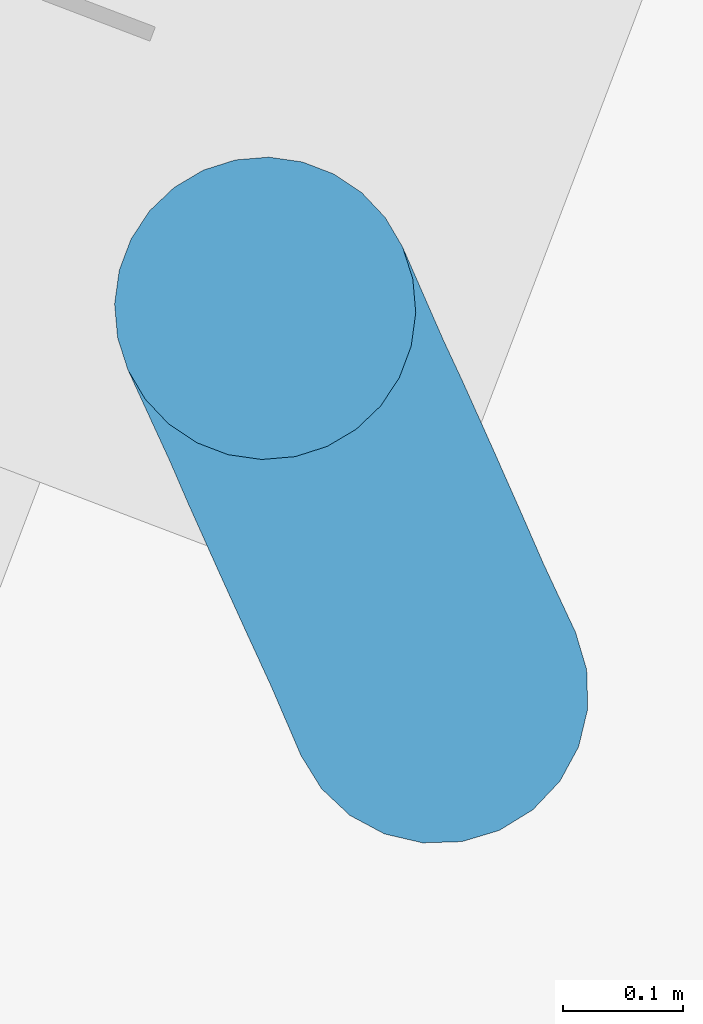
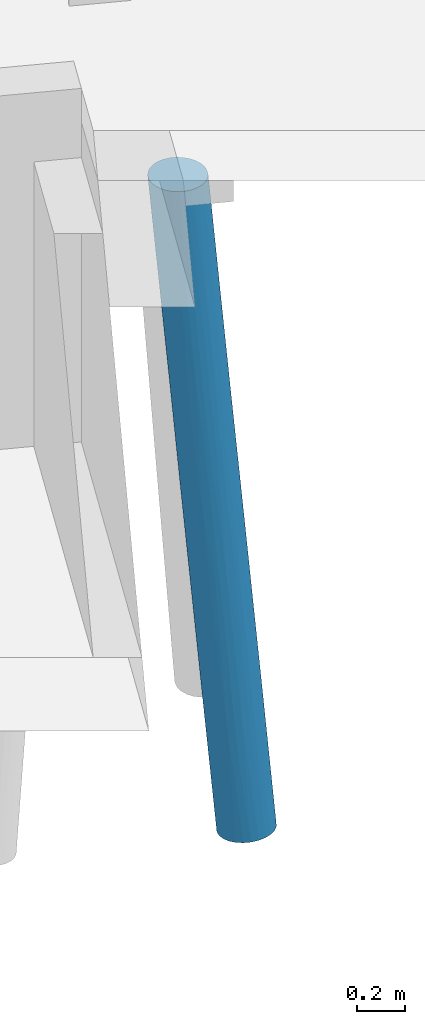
# One storey, part 10 of 46: 1 pile.
"""IFC2X3 building model written with IfcOpenShell, lengths in millimetres."""

import ifcopenshell
import ifcopenshell.guid

model = None  # the IFC model being written
_history = None  # IfcOwnerHistory: only IFC2X3 demands one
_inside = {}  # id of a spatial element -> (the spatial element, [elements in it])
_under = {}  # id of a project, library or spatial element -> (it, [spatial elements below it])
_declared = {}  # id of a project -> (the project, [libraries it declares])
_typed = {}  # id of a type object -> (the type object, [elements of that type])
_made_of = {}  # id of a material, layer set ... -> (it, [elements and type objects made of it])


def new_model(schema):
    """Start an empty IFC model of exactly this schema.

    Asked for "IFC4X3", IfcOpenShell would pick the latest addendum, in which some entities
    have other attributes; the version numbers below select the first issue.
    IFC2X3 requires an IfcOwnerHistory on every rooted entity: one is made here for all.
    """
    global model, _history
    if schema == "IFC4X3":
        model = ifcopenshell.file(schema_version=(4, 3, 0, 0))
    else:
        model = ifcopenshell.file(schema=schema)
    _inside.clear()
    _under.clear()
    _declared.clear()
    _typed.clear()
    _made_of.clear()
    _history = None
    if model.schema == "IFC2X3":
        org = make("IfcOrganization", Name="unknown")
        user = make(
            "IfcPersonAndOrganization",
            ThePerson=make("IfcPerson", FamilyName="unknown"),
            TheOrganization=org,
        )
        app = make(
            "IfcApplication",
            ApplicationDeveloper=org,
            Version="unknown",
            ApplicationFullName="unknown",
            ApplicationIdentifier="unknown",
        )
        _history = make(
            "IfcOwnerHistory",
            OwningUser=user,
            OwningApplication=app,
            ChangeAction="ADDED",
            CreationDate=0,
        )
    return model


def make(cls, **values):
    """One entity of the class cls with the attributes given. An attribute that is None is left unset."""
    return model.create_entity(
        cls, **{name: value for name, value in values.items() if value is not None}
    )


def entity(cls, *values):
    """Any entity or typed value of the class cls, its attributes in the order of the schema. None: left unset."""
    e = model.create_entity(cls)
    for i, value in enumerate(values):
        if value is not None:
            e[i] = value
    return e


def rooted(cls, **values):
    """An entity with a GlobalId (a new one), such as an element, a storey or a relation."""
    return make(cls, GlobalId=ifcopenshell.guid.new(), OwnerHistory=_history, **values)


def si_unit(unit_type, name, prefix=None):
    """IfcSIUnit, for example si_unit("LENGTHUNIT", "METRE", prefix="MILLI")."""
    return make("IfcSIUnit", UnitType=unit_type, Prefix=prefix, Name=name)


def converted_unit(unit_type, name, factor, base, dimensions=None, offset=None):
    """IfcConversionBasedUnit, such as the inch: factor (a typed value) times the base unit."""
    return make(
        "IfcConversionBasedUnit"
        if offset is None
        else "IfcConversionBasedUnitWithOffset",
        ConversionOffset=offset,
        Dimensions=None
        if dimensions is None
        else entity("IfcDimensionalExponents", *dimensions),
        UnitType=unit_type,
        Name=name,
        ConversionFactor=make(
            "IfcMeasureWithUnit", ValueComponent=factor, UnitComponent=base
        ),
    )


def derived_unit(unit_type, elements):
    """IfcDerivedUnit: a product of units, each with its exponent."""
    return make(
        "IfcDerivedUnit",
        Elements=[
            make("IfcDerivedUnitElement", Unit=unit, Exponent=power)
            for unit, power in elements
        ],
        UnitType=unit_type,
    )


def assignment(units):
    """IfcUnitAssignment: the units of a project."""
    return None if units is None else make("IfcUnitAssignment", Units=units)


def point(xyz):
    """IfcCartesianPoint."""
    return None if xyz is None else make("IfcCartesianPoint", Coordinates=xyz)


def direction(xyz):
    """IfcDirection."""
    return None if xyz is None else make("IfcDirection", DirectionRatios=xyz)


def frame(location, z_axis=None, x_axis=None):
    """IfcAxis2Placement3D, a coordinate frame: its origin and axes. An axis left out is left unset."""
    return make(
        "IfcAxis2Placement3D",
        Location=point(location),
        Axis=direction(z_axis),
        RefDirection=direction(x_axis),
    )


def origin():
    """The frame at (0, 0, 0) with its axes left unset."""
    return frame((0.0, 0.0, 0.0))


def place(relative_to, where):
    """IfcLocalPlacement: puts the frame where relative to a parent placement (None: the world)."""
    return make(
        "IfcLocalPlacement", PlacementRelTo=relative_to, RelativePlacement=where
    )


def context(
    kind, dimensions, precision=None, world=None, true_north=None, identifier=None
):
    """IfcGeometricRepresentationContext, for example the 3D "Model" context."""
    return make(
        "IfcGeometricRepresentationContext",
        ContextIdentifier=identifier,
        ContextType=kind,
        CoordinateSpaceDimension=dimensions,
        Precision=precision,
        WorldCoordinateSystem=world,
        TrueNorth=true_north,
    )


def subcontext(parent, identifier, kind, view, scale=None):
    """IfcGeometricRepresentationSubContext, for example "Body" below "Model"."""
    return make(
        "IfcGeometricRepresentationSubContext",
        ContextIdentifier=identifier,
        ContextType=kind,
        ParentContext=parent,
        TargetScale=scale,
        TargetView=view,
    )


def project(units=None, contexts=None):
    """IfcProject with its units and contexts."""
    return rooted(
        "IfcProject",
        Name="project",
        RepresentationContexts=contexts,
        UnitsInContext=assignment(units),
    )


def spatial(cls, under=None, at=None, **own):
    """A site, building, storey or space (cls), placed at a placement, below another one or the project."""
    s = rooted(cls, ObjectPlacement=at, **own)
    if under is not None:
        _under.setdefault(under.id(), (under, []))[1].append(s)
    return s


def faces_of(points, faces, orient=None, outer=None):
    """IfcFace entities. A face is a list of loops; a loop is a list of indices into points, from 0.

    orient and outer hold one flag for each loop. By default every Orientation is true, the
    first loop of a face is its IfcFaceOuterBound and the others are IfcFaceBound.
    """
    made = []
    for i, loops in enumerate(faces):
        bounds = []
        for j, loop in enumerate(loops):
            is_outer = j == 0 if outer is None else outer[i][j]
            bounds.append(
                make(
                    "IfcFaceOuterBound" if is_outer else "IfcFaceBound",
                    Bound=make("IfcPolyLoop", Polygon=[points[k] for k in loop]),
                    Orientation=True if orient is None else orient[i][j],
                )
            )
        made.append(make("IfcFace", Bounds=bounds))
    return made


def faceted_brep(points, faces, orient=None, outer=None, voids=None):
    """IfcFacetedBrep: a solid bounded by flat faces; with voids (closed shells), ...WithVoids."""
    shared = [point(p) for p in points]
    hull = make("IfcClosedShell", CfsFaces=faces_of(shared, faces, orient, outer))
    if voids is None:
        return make("IfcFacetedBrep", Outer=hull)
    return make(
        "IfcFacetedBrepWithVoids",
        Outer=hull,
        Voids=[
            make(cls, CfsFaces=faces_of(shared, fs, o, b)) for cls, fs, o, b in voids
        ],
    )


def shape(context_of_items, identifier, shape_type, items):
    """IfcShapeRepresentation: the items that make up one representation, for example the "Body"."""
    return make(
        "IfcShapeRepresentation",
        ContextOfItems=context_of_items,
        RepresentationIdentifier=identifier,
        RepresentationType=shape_type,
        Items=items,
    )


def source(mapping_origin, context_of_items, identifier, shape_type, items):
    """IfcRepresentationMap: a shape defined once, which mapped items show again and again."""
    return make(
        "IfcRepresentationMap",
        MappingOrigin=mapping_origin,
        MappedRepresentation=shape(context_of_items, identifier, shape_type, items),
    )


def transform(
    local_origin,
    x_axis=None,
    y_axis=None,
    z_axis=None,
    scale=None,
    scale2=None,
    scale3=None,
    uniform=True,
):
    """IfcCartesianTransformationOperator3D, or its non-uniform kind. x_axis, y_axis, z_axis: its Axis1, 2, 3."""
    if uniform:
        return make(
            "IfcCartesianTransformationOperator3D",
            Axis1=direction(x_axis),
            Axis2=direction(y_axis),
            LocalOrigin=point(local_origin),
            Scale=scale,
            Axis3=direction(z_axis),
        )
    return make(
        "IfcCartesianTransformationOperator3DnonUniform",
        Axis1=direction(x_axis),
        Axis2=direction(y_axis),
        LocalOrigin=point(local_origin),
        Scale=scale,
        Axis3=direction(z_axis),
        Scale2=scale2,
        Scale3=scale3,
    )


def mapped(mapping_source, mapping_target):
    """IfcMappedItem: shows the shape of a source again, moved by a transform."""
    return make(
        "IfcMappedItem", MappingSource=mapping_source, MappingTarget=mapping_target
    )


def material(Name=None, Category=None):
    """IfcMaterial."""
    return make("IfcMaterial", Name=Name, Category=Category)


def made_of(thing, what):
    """Note that an element or type object is made of a material, layer set ...; save() writes the relation."""
    if what is not None:
        _made_of.setdefault(what.id(), (what, []))[1].append(thing)
    return thing


def type_object(cls, material=None, **own):
    """A type object (cls), such as IfcWallType, which elements share."""
    return made_of(rooted(cls, **own), material)


def type_shapes(of_type, sources):
    """Give a type object the sources (RepresentationMaps) that its elements show as mapped items."""
    of_type.RepresentationMaps = sources


def element(
    cls,
    number,
    at=None,
    inside=None,
    cuts=None,
    type_object=None,
    material=None,
    context=None,
    identifier="Body",
    shape_type=None,
    held_by="IfcProductDefinitionShape",
    body=None,
    shapes=None,
    **own,
):
    """One element of the class cls, such as IfcWall. Its Tag is "e" and its number.

    at: its placement. inside: the storey or other place that contains it. cuts: it is an
    opening in that element (IfcRelVoidsElement). A single representation is given by context,
    identifier, shape_type and body (its items); several are given by shapes. held_by: the class
    of the entity that holds the representations. save() writes the other relations.
    """
    e = rooted(cls, Tag="e%d" % number, ObjectPlacement=at, **own)
    if body is not None:
        shapes = [shape(context, identifier, shape_type, body)]
    if shapes is not None:
        e.Representation = make(held_by, Representations=shapes)
    if inside is not None:
        _inside.setdefault(inside.id(), (inside, []))[1].append(e)
    if cuts is not None:
        rooted(
            "IfcRelVoidsElement", RelatingBuildingElement=cuts, RelatedOpeningElement=e
        )
    if type_object is not None:
        _typed.setdefault(type_object.id(), (type_object, []))[1].append(e)
    return made_of(e, material)


def aggregate(whole, parts):
    """IfcRelAggregates: a whole, such as a stair, and the parts it consists of."""
    return rooted("IfcRelAggregates", RelatingObject=whole, RelatedObjects=parts)


def save(model, path):
    """Write the relations noted so far, then the file.

    IfcRelAggregates (storeys below a building ...), IfcRelContainedInSpatialStructure (elements
    in a storey), IfcRelDefinesByType, IfcRelAssociatesMaterial and IfcRelDeclares: one each for
    every whole, place, type object, material and project.
    """
    for whole, parts in _under.values():
        aggregate(whole, parts)
    for where, things in _inside.values():
        rooted(
            "IfcRelContainedInSpatialStructure",
            RelatedElements=things,
            RelatingStructure=where,
        )
    for kind, things in _typed.values():
        rooted("IfcRelDefinesByType", RelatedObjects=things, RelatingType=kind)
    for what, things in _made_of.values():
        rooted("IfcRelAssociatesMaterial", RelatedObjects=things, RelatingMaterial=what)
    for by, libraries in _declared.values():
        rooted("IfcRelDeclares", RelatingContext=by, RelatedDefinitions=libraries)
    model.write(path)


model = new_model("IFC2X3")

# Units and contexts
model_context = context("Model", 3, precision=0.01, world=origin(), true_north=direction((6.123233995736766e-17, 1.0)))
body_context = subcontext(model_context, "Body", "Model", "MODEL_VIEW")
ifc_project = project(units=[si_unit("LENGTHUNIT", "METRE", prefix="MILLI"), converted_unit("PLANEANGLEUNIT", "DEGREE", entity("IfcPlaneAngleMeasure", 0.017453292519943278), si_unit("PLANEANGLEUNIT", "RADIAN"), dimensions=[0, 0, 0, 0, 0, 0, 0]), si_unit("AREAUNIT", "SQUARE_METRE"), derived_unit("THERMALTRANSMITTANCEUNIT", [(si_unit("MASSUNIT", "GRAM", prefix="KILO"), 1), (si_unit("THERMODYNAMICTEMPERATUREUNIT", "KELVIN"), -1), (si_unit("TIMEUNIT", "SECOND"), -3)])], contexts=[model_context])

# Site, building, storey
site_placement = place(None, frame((-72937.88054949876, 11621.45624098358, 0.0), z_axis=(0.0, 0.0, 1.0), x_axis=(0.9346418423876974, -0.35559053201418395, 0.0)))
site = spatial("IfcSite", under=ifc_project, at=site_placement, Name="Default", CompositionType="ELEMENT")
building_placement = place(site_placement, origin())
building = spatial("IfcBuilding", under=site, at=building_placement, CompositionType="ELEMENT")
storey_placement = place(building_placement, origin())
storey = spatial("IfcBuildingStorey", under=building, at=storey_placement, Name="00 begane grond", CompositionType="ELEMENT", Elevation=0.0)

# Pile
ifc_material = material(Name="beton_gewapend_prefab-element_c45/55")
type_product = type_object("IfcTypeProduct", Name="Type 01", material=ifc_material)
shared_shape = source(origin(), body_context, "Body", "Brep", [
    faceted_brep([(-21.492869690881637, -34.07967924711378, -2142.478153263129), (41.770052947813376, 0.0, -1615.9926657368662), (50.02983679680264, -41.219149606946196, -1478.3429510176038), (-120.39371842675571, -27.815116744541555, -840.0), (-209.76851175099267, 0.0, -1615.9934634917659), (-196.5141812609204, -41.35907440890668, -1560.4595682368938), (-88.87736384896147, -91.39060439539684, -2432.143714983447), (-29.01608810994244, -89.9027707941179, -1907.5825387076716), (-105.46135978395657, -105.60554685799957, -2414.744852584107), (115.53639022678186, -54.235467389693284, -840.0), (100.55257203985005, -77.93622523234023, -840.0), (44.04069234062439, -66.4881713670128, -1422.150587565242), (-241.29781855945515, -62.499999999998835, -4011.9545633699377), (-228.8866429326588, -32.35238063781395, -4013.333582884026), (-181.63351961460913, -47.83542906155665, -3540.4622999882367), (127.99146025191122, 0.0, -840.0), (124.838162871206, -27.815116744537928, -840.0), (56.79144948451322, -112.62110848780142, -840.0), (-1.0422673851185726, -115.29700921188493, -1306.634534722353), (80.6380595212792, -97.7289353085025, -840.0), (-148.00042706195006, -121.55050259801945, -1927.9224619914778), (-119.59016639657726, -124.7753227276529, -1868.475336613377), (-82.66188090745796, -124.23733970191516, -1479.1096584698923), (2.222222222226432, -125.0, -840.0), (-25.764066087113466, -121.86598902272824, -840.0), (35.238837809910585, -88.30507823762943, -1343.9943162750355), (-38.428481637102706, -123.46402257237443, -1382.7576650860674), (30.208510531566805, -121.86598902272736, -840.0), (-105.46067851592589, -124.17311504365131, -1939.1271630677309), (-121.64165871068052, -118.88184081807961, -2304.5646505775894), (-59.29822656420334, -117.91120533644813, -1769.4495348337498), (-224.65342205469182, 0.0, -4013.803940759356), (-181.5427184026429, 0.0, -3625.8076078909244), (-187.86059930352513, -76.09517863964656, -3448.7603995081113), (-111.16783038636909, -79.40373738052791, -2734.720867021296), (-186.42266103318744, -99.1691675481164, -3226.87509877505), (-381.04339378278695, -120.74072828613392, -3996.4272772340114), (-348.8888888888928, -125.0, -4000.0), (-294.25946310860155, -123.9306076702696, -3360.589550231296), (-119.53291308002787, -47.835429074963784, -2981.55684112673), (-105.13946974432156, -22.11026756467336, -2920.330251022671), (-71.50265177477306, -37.61355729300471, -2582.985799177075), (-160.26870491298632, -23.53094104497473, -3414.1045295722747), (-286.7711554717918, -108.25317547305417, -4006.901970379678), (-238.88036705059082, -115.48494156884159, -3443.09153660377), (-261.04114782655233, -88.38834764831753, -4009.7608601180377), (-316.7343839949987, -120.74072828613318, -4003.5727227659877), (-84.00174733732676, -60.02171841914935, -2608.908596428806), (-61.65923548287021, -74.64816535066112, -2322.8523974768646), (-173.2739820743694, -115.31995815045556, -2856.223431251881), (-151.97718420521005, -123.99260475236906, -2371.2114813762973), (-123.54701580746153, 0.0, -840.0), (-250.82857575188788, -22.617884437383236, -2004.2180489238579), (-295.9900076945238, 0.0, -2391.986926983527), (-52.347005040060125, -112.6211084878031, -840.0), (-76.19361507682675, -97.72893530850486, -840.0), (-107.44397040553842, -105.89787173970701, -1225.6035634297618), (-281.4812245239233, -123.93060767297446, -3541.076638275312), (-109.06614769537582, -117.5733672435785, -1457.2474766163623), (-111.0919457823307, -54.235467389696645, -840.0), (-15.85514051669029, -105.72630914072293, -1606.5585830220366), (-146.68659472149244, -88.47759853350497, -1380.5978408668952), (-158.7756678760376, -105.96661342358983, -1688.5825591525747), (-348.5966640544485, -22.310072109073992, -2883.621631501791), (-384.5571817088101, 0.0, -3189.0914931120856), (-404.9818286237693, -23.95962394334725, -3393.9013620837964), (-416.2874807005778, -47.83542904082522, -3560.826702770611), (-468.89113484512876, -32.35238063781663, -3986.6664171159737), (-456.47995921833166, -62.500000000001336, -3988.0454366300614), (-337.6622645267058, -115.48494156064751, -3465.7921474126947), (-411.00662230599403, -108.25317547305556, -3993.0980296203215), (-255.6918544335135, -84.13968982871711, -2324.129304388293), (-241.96823570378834, -100.09571921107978, -2359.7174741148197), (-204.57839676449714, -89.69967503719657, -1912.8684599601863), (-96.10812759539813, -77.93622523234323, -840.0), (-436.73662995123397, -88.38834764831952, -3990.239139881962), (-377.92930595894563, -99.16916753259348, -3572.292603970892), (-206.96183482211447, -60.377923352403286, -1731.5361763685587), (-358.429549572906, -47.83542903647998, -3040.1053226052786), (-296.17437932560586, -43.53585544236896, -2464.518236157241), (-379.61635653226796, -76.09517861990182, -3378.5322028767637), (-430.0136077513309, 0.0, -3598.199327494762), (-306.35511538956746, -77.61365432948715, -2729.9013330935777), (-213.4617402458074, -118.14633713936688, -2411.4959163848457), (-159.2186646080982, -65.41382269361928, -1328.4086999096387), (-67.97340634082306, -109.92592992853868, -2010.6352011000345), (-179.43548008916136, -124.76102802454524, -2404.9604566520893), (-13.219750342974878, -66.34050229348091, -1938.3332116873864), (-236.17409644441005, -124.51562049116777, -2886.015168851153), (-268.30597333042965, -110.23172722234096, -2741.026078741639), (-270.10864031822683, -119.49229851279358, -2958.6820679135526), (-320.7170568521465, -99.16916752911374, -3057.382361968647), (-473.12435572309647, 0.0, -3986.1960592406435), (-138.91569201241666, -99.37675608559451, -2796.855638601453), (-220.46267944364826, -123.93060767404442, -2991.9097324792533), (-44.45135435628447, 0.0, -2391.9853314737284), (-247.15908292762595, -66.69543969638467, -2127.0964328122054), (-134.55238820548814, 0.0, -3202.894636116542), (-89.50217198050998, 0.0, -2797.4426900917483), (-303.09738986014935, -21.900839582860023, -2473.4623287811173), (-340.273594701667, 0.0, -2790.539210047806), (-246.59414544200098, -45.75852255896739, -2025.9931784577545), (124.83816287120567, 27.815116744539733, -840.0), (115.53639022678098, 54.23546738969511, -840.0), (100.55257203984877, 77.93622523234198, -840.0), (80.63805952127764, 97.72893530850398, -840.0), (56.7914494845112, 112.62110848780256, -840.0), (30.20851053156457, 121.86598902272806, -840.0), (2.222222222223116, 125.0, -840.0), (-25.764066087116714, 121.86598902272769, -840.0), (-52.3470050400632, 112.62110848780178, -840.0), (-76.19361507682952, 97.72893530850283, -840.0), (-96.1081275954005, 77.93622523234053, -840.0), (-111.09194578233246, 54.23546738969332, -840.0), (-120.39371842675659, 27.815116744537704, -840.0), (-213.46174017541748, 118.14633716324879, -2411.4959163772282), (-268.3059732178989, 110.23172722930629, -2741.0260778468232), (-241.96823566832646, 100.09571920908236, -2359.717473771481), (-187.14229973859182, 67.59575846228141, -1592.137482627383), (-196.5141812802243, 41.359074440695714, -1560.4595685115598), (-82.66188086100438, 124.23733970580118, -1479.1096583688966), (-29.016087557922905, 89.90277069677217, -1907.5825346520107), (35.23883807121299, 88.30507821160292, -1343.9943141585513), (-13.219750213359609, 66.3405022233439, -1938.3332109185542), (-109.06614766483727, 117.57336725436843, -1457.2474766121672), (-381.04339378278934, 120.74072828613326, -3996.4272772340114), (-337.6622645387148, 115.48494156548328, -3465.7921476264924), (-294.2594631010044, 123.93060767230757, -3360.5895503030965), (-377.9293059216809, 99.16916753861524, -3572.292603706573), (-379.61635651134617, 76.09517863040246, -3378.53220276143), (-320.717056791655, 99.16916754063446, -3057.382361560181), (-286.77115547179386, 108.25317547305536, -4006.901970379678), (-238.88036707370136, 115.48494156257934, -3443.0915369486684), (-186.42266103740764, 99.16916753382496, -3226.875098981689), (-241.29781855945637, 62.50000000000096, -4011.9545633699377), (-181.63351956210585, 47.835429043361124, -3540.4622995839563), (-228.88664293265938, 32.352380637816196, -4013.333582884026), (-107.44397039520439, 105.89787175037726, -1225.6035634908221), (-38.428481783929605, 123.46402262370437, -1382.7576634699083), (-468.89113484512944, 32.35238063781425, -3986.6664171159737), (-173.2739821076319, 115.31995832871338, -2856.223427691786), (-138.91569233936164, 99.37675620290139, -2796.855640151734), (-160.26870486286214, 23.530941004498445, -3414.104529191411), (-261.041147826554, 88.38834764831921, -4009.7608601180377), (-187.86059935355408, 76.09517862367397, -3448.760400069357), (-306.35511542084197, 77.61365434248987, -2729.9013334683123), (-348.8888888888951, 125.0, -4000.0), (-456.47995921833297, 62.49999999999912, -3988.0454366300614), (-416.2874806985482, 47.83542904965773, -3560.826702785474), (-411.0066223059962, 108.25317547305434, -3993.0980296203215), (-436.7366299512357, 88.38834764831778, -3990.239139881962), (-84.00174724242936, 60.02171839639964, -2608.9085956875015), (-21.492869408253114, 34.07967918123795, -2142.4781508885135), (-71.50265159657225, 37.613557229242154, -2582.9857977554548), (-220.46267940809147, 123.93060767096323, -2991.909732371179), (-281.48122449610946, 123.9306076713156, -3541.07663813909), (-148.0004270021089, 121.5505026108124, -1927.922461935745), (-158.7756678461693, 105.9666134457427, -1688.5825592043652), (-15.85514048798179, 105.72630911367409, -1606.5585831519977), (-59.298225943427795, 117.91120535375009, -1769.449528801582), (-1.0422669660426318, 115.29700910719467, -1306.634533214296), (-270.1086403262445, 119.49229851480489, -2958.682068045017), (50.02983688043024, 41.21914955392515, -1478.342950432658), (-146.6865947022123, 88.47759855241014, -1380.5978408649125), (-358.42954957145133, 47.83542905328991, -3040.1053226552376), (-348.59666404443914, 22.310072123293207, -2883.6216314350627), (-296.1743793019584, 43.535855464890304, -2464.5182360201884), (57.21126448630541, 65.80573689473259, -1307.4694469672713), (-121.64165783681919, 118.88184074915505, -2304.564644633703), (-67.97340649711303, 109.92593000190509, -2010.6352012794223), (-105.13946990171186, 22.110267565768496, -2920.330252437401), (-179.4354799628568, 124.7610280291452, -2404.960456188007), (-316.73438399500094, 120.7407282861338, -4003.5727227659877), (-119.53291301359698, 47.8354290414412, -2981.5568406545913), (-250.82857577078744, 22.617884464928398, -2004.2180491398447), (-404.98182862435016, 23.959623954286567, -3393.9013621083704), (-61.65923550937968, 74.64816548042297, -2322.852396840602), (-243.17628094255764, 45.971171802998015, -1995.991919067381), (-105.46135971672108, 105.60554680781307, -2414.7448526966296), (-111.16783063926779, 79.40373735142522, -2734.7208695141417), (-119.59016630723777, 124.7753227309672, -1868.4753363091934), (-236.17409637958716, 124.515620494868, -2886.0151686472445), (-204.5783966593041, 89.69967507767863, -1912.8684593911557), (-247.1590829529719, 66.69543974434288, -2127.0964333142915), (-88.87736442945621, 91.39060438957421, -2432.1437202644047), (-255.69185439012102, 84.13968979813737, -2324.1293037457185), (-168.1781585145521, 123.85607816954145, -2526.387901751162), (-105.46067843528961, 124.17311503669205, -1939.1271628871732), (-303.0973898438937, 21.90083960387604, -2473.4623286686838)], [[[0, 1, 2]], [[3, 4, 5]], [[6, 7, 8]], [[9, 10, 11]], [[12, 13, 14]], [[1, 15, 16]], [[17, 18, 19]], [[20, 21, 22]], [[22, 23, 24]], [[10, 19, 25]], [[26, 18, 27]], [[23, 22, 26]], [[28, 29, 30]], [[13, 31, 32]], [[33, 34, 35]], [[36, 37, 38]], [[39, 40, 41]], [[14, 42, 39]], [[43, 35, 44]], [[33, 35, 45]], [[43, 44, 46]], [[47, 48, 34]], [[49, 29, 50]], [[3, 51, 4]], [[30, 26, 28]], [[52, 4, 53]], [[54, 55, 56]], [[57, 38, 37]], [[58, 24, 54]], [[57, 37, 46]], [[3, 5, 59]], [[2, 16, 9]], [[4, 52, 5]], [[25, 60, 7]], [[45, 35, 43]], [[61, 62, 56]], [[63, 64, 65]], [[66, 67, 68]], [[69, 36, 38]], [[36, 69, 70]], [[71, 72, 73]], [[61, 55, 74]], [[75, 70, 76]], [[61, 77, 73]], [[63, 78, 79]], [[75, 76, 80]], [[64, 81, 65]], [[78, 80, 82]], [[75, 80, 68]], [[72, 83, 62]], [[5, 84, 59]], [[29, 8, 85]], [[11, 10, 25]], [[28, 21, 86]], [[45, 12, 33]], [[49, 44, 35]], [[58, 54, 56]], [[22, 58, 20]], [[0, 2, 87]], [[1, 16, 2]], [[88, 86, 83]], [[39, 42, 40]], [[89, 69, 90]], [[74, 59, 84]], [[62, 73, 72]], [[82, 80, 91]], [[66, 80, 78]], [[14, 33, 12]], [[67, 81, 92]], [[34, 33, 39]], [[39, 41, 47]], [[34, 6, 93]], [[35, 93, 49]], [[57, 44, 94]], [[90, 69, 38]], [[76, 69, 91]], [[34, 39, 47]], [[1, 0, 95]], [[72, 82, 91]], [[82, 96, 79]], [[72, 91, 89]], [[62, 61, 73]], [[32, 42, 13]], [[33, 14, 39]], [[44, 57, 46]], [[38, 57, 94]], [[42, 32, 97]], [[42, 97, 40]], [[13, 42, 14]], [[40, 97, 98, 95]], [[41, 95, 0]], [[61, 56, 55]], [[58, 56, 62]], [[20, 62, 83]], [[24, 58, 22]], [[62, 20, 58]], [[20, 83, 86]], [[83, 90, 88]], [[28, 50, 29]], [[90, 38, 88]], [[89, 90, 83]], [[95, 41, 40]], [[47, 0, 87]], [[0, 47, 41]], [[48, 47, 87]], [[7, 48, 87]], [[6, 34, 48]], [[87, 2, 11]], [[7, 60, 85]], [[60, 25, 19]], [[11, 7, 87]], [[7, 6, 48]], [[93, 6, 8]], [[93, 8, 49]], [[34, 93, 35]], [[29, 49, 8]], [[94, 44, 49]], [[30, 85, 60]], [[28, 86, 50]], [[18, 30, 60]], [[18, 26, 30]], [[23, 26, 27]], [[21, 26, 22]], [[19, 18, 60]], [[18, 17, 27]], [[77, 61, 84]], [[71, 96, 82]], [[72, 89, 83]], [[69, 89, 91]], [[38, 94, 88]], [[50, 88, 94]], [[80, 66, 68]], [[65, 67, 66]], [[78, 63, 65]], [[67, 65, 81]], [[78, 65, 66]], [[78, 82, 79]], [[99, 100, 63]], [[79, 101, 52]], [[99, 63, 79]], [[69, 76, 70]], [[80, 76, 91]], [[96, 71, 73]], [[82, 72, 71]], [[29, 85, 30]], [[7, 85, 8]], [[99, 52, 53]], [[101, 79, 96]], [[77, 84, 5]], [[74, 84, 61]], [[86, 21, 20]], [[26, 21, 28]], [[9, 11, 2]], [[7, 11, 25]], [[88, 50, 86]], [[49, 50, 94]], [[52, 99, 79]], [[100, 64, 63]], [[100, 99, 53]], [[77, 101, 96]], [[5, 52, 101]], [[101, 77, 5]], [[73, 77, 96]], [[24, 23, 27, 17, 19, 10, 9, 16, 15, 102, 103, 104, 105, 106, 107, 108, 109, 110, 111, 112, 113, 114, 51, 3, 59, 74, 55, 54]], [[51, 114, 4]], [[115, 116, 117]], [[118, 113, 112]], [[119, 114, 113]], [[120, 109, 108]], [[121, 122, 123]], [[120, 124, 109]], [[125, 126, 127]], [[128, 129, 130]], [[131, 132, 133]], [[134, 135, 136]], [[137, 111, 110]], [[138, 108, 107]], [[139, 92, 81]], [[140, 141, 133]], [[142, 97, 32]], [[143, 133, 144]], [[130, 129, 145]], [[146, 125, 127]], [[147, 139, 148]], [[149, 150, 128]], [[151, 152, 153]], [[154, 155, 127]], [[124, 156, 157]], [[158, 159, 160]], [[4, 114, 119]], [[160, 107, 106]], [[161, 127, 126]], [[103, 102, 162]], [[158, 160, 105]], [[111, 137, 163]], [[164, 165, 166]], [[105, 104, 122]], [[102, 15, 1]], [[167, 103, 162]], [[167, 123, 122]], [[168, 159, 169]], [[170, 97, 142]], [[115, 156, 171]], [[155, 172, 146]], [[163, 118, 112]], [[169, 159, 158]], [[111, 163, 112]], [[143, 131, 133]], [[130, 145, 117]], [[134, 143, 144]], [[123, 162, 152]], [[129, 150, 147]], [[173, 151, 153]], [[119, 174, 4]], [[148, 175, 164]], [[121, 123, 176]], [[166, 174, 177]], [[140, 168, 178]], [[131, 172, 132]], [[144, 179, 173]], [[171, 156, 180]], [[124, 157, 137]], [[102, 1, 162]], [[152, 1, 95]], [[125, 149, 126]], [[136, 32, 31]], [[115, 181, 161]], [[182, 157, 117]], [[118, 183, 177]], [[148, 129, 147]], [[164, 166, 145]], [[155, 132, 172]], [[164, 175, 165]], [[141, 140, 178]], [[179, 144, 133]], [[135, 144, 173]], [[178, 184, 141]], [[151, 176, 123]], [[128, 126, 149]], [[161, 116, 115]], [[1, 152, 162]], [[95, 170, 153]], [[164, 145, 129]], [[163, 157, 182]], [[185, 183, 182]], [[115, 117, 157]], [[144, 135, 134]], [[142, 136, 135]], [[127, 155, 146]], [[132, 155, 154]], [[173, 170, 142]], [[136, 142, 32]], [[173, 142, 135]], [[153, 170, 173]], [[170, 95, 98, 97]], [[110, 109, 124]], [[163, 137, 157]], [[124, 137, 110]], [[156, 124, 120]], [[180, 156, 120]], [[157, 156, 115]], [[186, 187, 168]], [[161, 181, 127]], [[116, 126, 130]], [[181, 115, 171]], [[173, 179, 151]], [[95, 153, 152]], [[176, 151, 179]], [[152, 151, 123]], [[179, 184, 176]], [[178, 169, 121]], [[121, 176, 184]], [[158, 105, 122]], [[103, 167, 104]], [[158, 122, 121]], [[141, 179, 133]], [[121, 184, 178]], [[179, 141, 184]], [[140, 133, 132]], [[132, 154, 140]], [[181, 186, 154]], [[186, 140, 154]], [[168, 187, 159]], [[138, 159, 187]], [[107, 160, 138]], [[180, 138, 187]], [[108, 138, 120]], [[138, 160, 159]], [[105, 160, 106]], [[185, 182, 117]], [[118, 182, 183]], [[126, 116, 161]], [[117, 116, 130]], [[186, 181, 171]], [[154, 127, 181]], [[81, 175, 139]], [[129, 148, 164]], [[175, 81, 64]], [[175, 64, 165]], [[139, 175, 148]], [[165, 64, 100]], [[166, 183, 145]], [[165, 188, 166]], [[174, 53, 4]], [[129, 128, 150]], [[126, 128, 130]], [[117, 145, 185]], [[183, 185, 145]], [[121, 169, 158]], [[168, 169, 178]], [[177, 174, 119]], [[188, 174, 166]], [[113, 118, 119]], [[182, 118, 163]], [[138, 180, 120]], [[171, 180, 187]], [[123, 167, 162]], [[104, 167, 122]], [[187, 186, 171]], [[140, 186, 168]], [[100, 188, 165]], [[188, 100, 53]], [[174, 188, 53]], [[118, 177, 119]], [[166, 177, 183]], [[146, 172, 131, 143, 134, 136, 31, 13, 12, 45, 43, 46, 37, 36, 70, 75, 68, 67, 92, 139, 147, 150, 149, 125]]]),
])
type_shapes(type_product, [shared_shape])
pile_placement = place(storey_placement, frame((57870.0, 21580.0, 0.0), z_axis=(0.0, 0.0, 1.0), x_axis=(-0.7071067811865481, 0.707106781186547, 0.0)))
element("IfcPile", 1, at=pile_placement, inside=storey, type_object=type_product, material=ifc_material, Name="17.21_Prefab funderingspaal rond", ObjectType="prefab paal rond", PredefinedType="NOTDEFINED", context=body_context, shape_type="MappedRepresentation", body=[
    mapped(shared_shape, transform((0.0, 0.0, 0.0), scale=1.0)),
])

save(model, "model.ifc")
